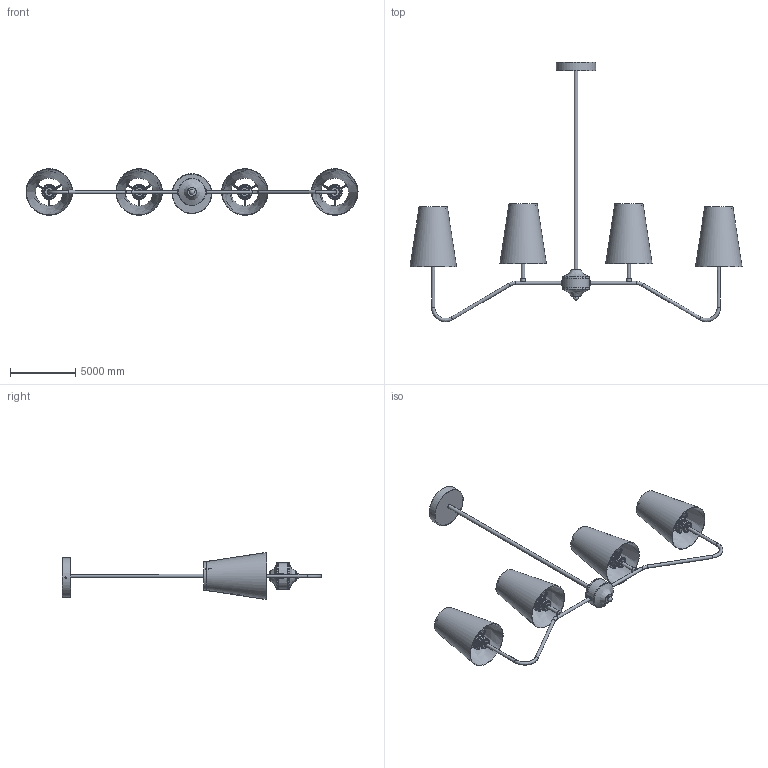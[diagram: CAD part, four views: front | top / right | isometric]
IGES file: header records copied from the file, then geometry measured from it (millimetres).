
Global section: file name: Olana Pendant Lamp-L39.4″,4; native system: 8HAutoCAD 2022 - 简体中文 (Simplified Chinese); preprocessor: Autodesk Translation Framework DWG producer (atf_dwg_producer); organization: unknown; date: 20250927.141735; units: inch
Bounding box: 25400.99 x 19841.55 x 3549.1 mm (x, y, z)
Volume: 9684916882 mm3; surface area: 560368627.1 mm2
Topology: 50 solids, 52 shells, 414 faces, 972 edges, 673 vertices
Faces by surface type: bspline 414
